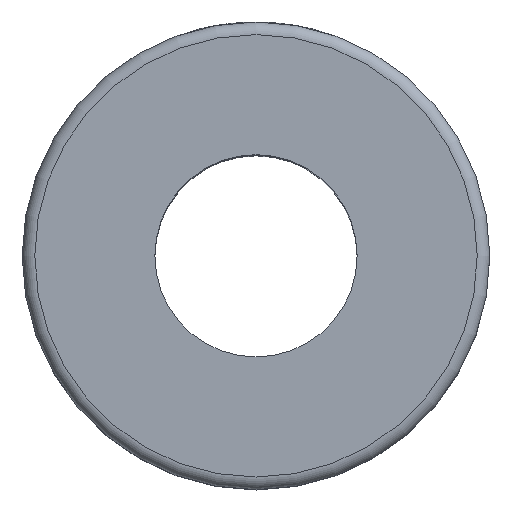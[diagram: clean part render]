
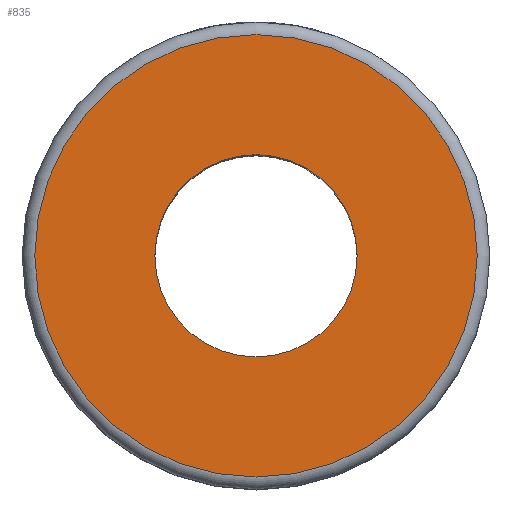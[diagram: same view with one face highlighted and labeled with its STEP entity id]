
A CAD part, top view. The second image highlights one B-rep face of the part: STEP entity #835.
In plain terms, the highlighted planar face has unit normal (0, 0, 1).
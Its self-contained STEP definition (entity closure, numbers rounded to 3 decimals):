
#25=FACE_BOUND('',#179,.T.);
#38=PLANE('',#930);
#80=CIRCLE('',#931,17.5);
#81=CIRCLE('',#932,8.);
#126=FACE_OUTER_BOUND('',#178,.T.);
#178=EDGE_LOOP('',(#652));
#179=EDGE_LOOP('',(#653));
#394=VERTEX_POINT('',#1548);
#395=VERTEX_POINT('',#1550);
#490=EDGE_CURVE('',#394,#394,#80,.T.);
#491=EDGE_CURVE('',#395,#395,#81,.T.);
#652=ORIENTED_EDGE('',*,*,#490,.F.);
#653=ORIENTED_EDGE('',*,*,#491,.T.);
#835=ADVANCED_FACE('',(#126,#25),#38,.T.);
#930=AXIS2_PLACEMENT_3D('',#1547,#1075,#1076);
#931=AXIS2_PLACEMENT_3D('',#1549,#1077,#1078);
#932=AXIS2_PLACEMENT_3D('',#1551,#1079,#1080);
#1075=DIRECTION('center_axis',(0.,0.,1.));
#1076=DIRECTION('ref_axis',(1.,0.,0.));
#1077=DIRECTION('center_axis',(0.,0.,-1.));
#1078=DIRECTION('ref_axis',(0.,1.,0.));
#1079=DIRECTION('center_axis',(0.,0.,-1.));
#1080=DIRECTION('ref_axis',(1.,0.,0.));
#1547=CARTESIAN_POINT('Origin',(0.,-18.5,0.));
#1548=CARTESIAN_POINT('',(17.5,0.,0.));
#1549=CARTESIAN_POINT('Origin',(0.,0.,0.));
#1550=CARTESIAN_POINT('',(0.,8.,0.));
#1551=CARTESIAN_POINT('Origin',(0.,0.,0.));
